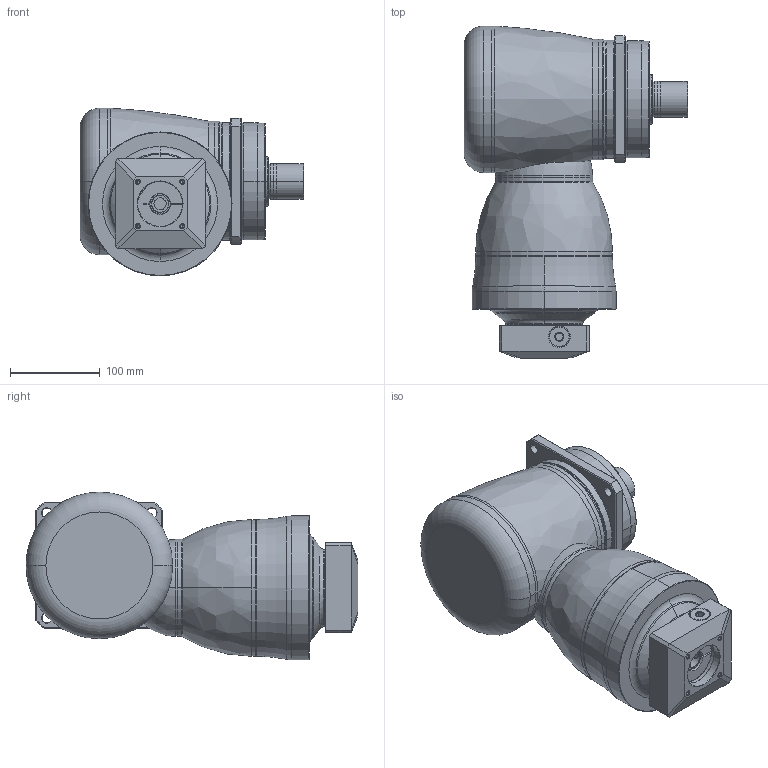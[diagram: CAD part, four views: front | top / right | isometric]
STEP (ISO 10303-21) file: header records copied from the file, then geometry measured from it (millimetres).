
FILE_DESCRIPTION((''),'2;1');
FILE_NAME('KF140_S3_2ST_19-P0409410101_ASM','2016-07-07T',('d01943'),(''),'PRO/ENGINEER BY PARAMETRIC TECHNOLOGY CORPORATION, 2008410','PRO/ENGINEER BY PARAMETRIC TECHNOLOGY CORPORATION, 2008410','');
FILE_SCHEMA(('CONFIG_CONTROL_DESIGN'));
Length unit declared in the file: millimetre
Products named in the file (11): P1008500002; P1804500001; P0915502001; P1315500001; P1007500001; P1317500001; P0409410101; P0503400008; P0912400001; 21711416017; KF140_S3_2ST_19-P0409410101_ASM
Assembly tree (10 placements, depth 2):
  KF140_S3_2ST_19-P0409410101_ASM
    P1008500002
    P1804500001
    P0915502001
    P1315500001
    P1007500001
    P1317500001
    P0409410101
    P0503400008
    P0912400001
    21711416017
Bounding box: 249 x 369 x 186.5 mm (x, y, z)
Volume: 6295558.3 mm3; surface area: 480627 mm2
Topology: 11 solids, 11 shells, 449 faces, 996 edges, 583 vertices
Faces by surface type: cylinder 142, cone 122, plane 92, torus 70, bspline 21, sphere 2
Entity records: 17284 total; most frequent: CARTESIAN_POINT 7125, DIRECTION 2257, ORIENTED_EDGE 1952, EDGE_CURVE 976, AXIS2_PLACEMENT_3D 959, VERTEX_POINT 583, CIRCLE 510, EDGE_LOOP 507
